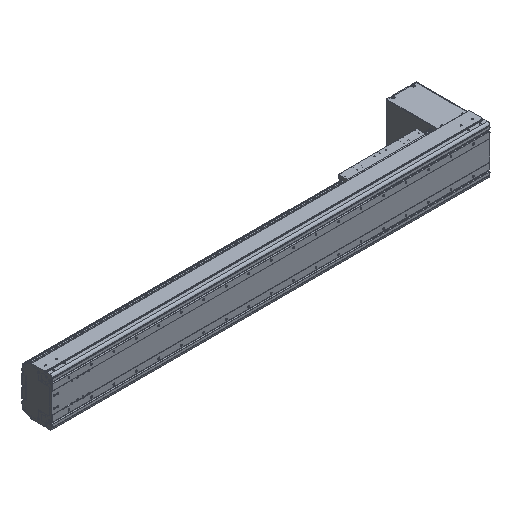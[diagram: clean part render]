
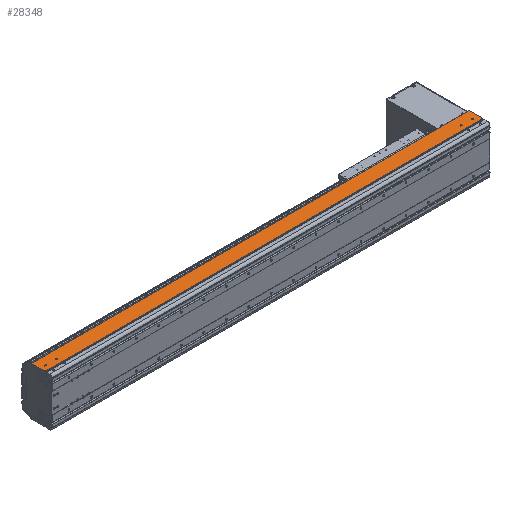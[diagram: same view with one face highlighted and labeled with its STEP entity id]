
A CAD part, isometric view. The second image highlights one B-rep face of the part: STEP entity #28348.
In plain terms, the highlighted planar face has unit normal (0, 0, 1).
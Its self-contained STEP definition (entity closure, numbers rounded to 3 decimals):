
#5125=DIRECTION('',(-1.,0.,0.));
#5126=VECTOR('',#5125,1948.5);
#5127=CARTESIAN_POINT('',(0.,93.5,107.));
#5128=LINE('',#5127,#5126);
#5169=CARTESIAN_POINT('',(0.,93.992,106.974));
#5170=CARTESIAN_POINT('',(0.,93.939,106.974));
#5171=CARTESIAN_POINT('',(0.,93.857,107.018));
#5172=CARTESIAN_POINT('',(0.,93.779,106.99));
#5173=CARTESIAN_POINT('',(0.,93.747,106.99));
#5175=CARTESIAN_POINT('',(0.,93.747,106.99));
#5176=CARTESIAN_POINT('',(0.,93.707,106.99));
#5177=CARTESIAN_POINT('',(0.,93.626,107.005));
#5178=CARTESIAN_POINT('',(0.,93.543,107.));
#5179=CARTESIAN_POINT('',(0.,93.5,107.));
#5181=CARTESIAN_POINT('',(-1923.5,54.,107.));
#5182=DIRECTION('',(0.,0.,-1.));
#5183=DIRECTION('',(1.,0.,0.));
#5184=AXIS2_PLACEMENT_3D('',#5181,#5182,#5183);
#5186=CARTESIAN_POINT('',(-1923.5,54.,107.));
#5187=DIRECTION('',(0.,0.,-1.));
#5188=DIRECTION('',(-1.,0.,0.));
#5189=AXIS2_PLACEMENT_3D('',#5186,#5187,#5188);
#5191=CARTESIAN_POINT('',(-1873.5,54.,107.));
#5192=DIRECTION('',(0.,0.,-1.));
#5193=DIRECTION('',(1.,0.,0.));
#5194=AXIS2_PLACEMENT_3D('',#5191,#5192,#5193);
#5196=CARTESIAN_POINT('',(-1873.5,54.,107.));
#5197=DIRECTION('',(0.,0.,-1.));
#5198=DIRECTION('',(-1.,0.,0.));
#5199=AXIS2_PLACEMENT_3D('',#5196,#5197,#5198);
#5201=CARTESIAN_POINT('',(-23.5,54.,107.));
#5202=DIRECTION('',(0.,0.,-1.));
#5203=DIRECTION('',(1.,0.,0.));
#5204=AXIS2_PLACEMENT_3D('',#5201,#5202,#5203);
#5206=CARTESIAN_POINT('',(-23.5,54.,107.));
#5207=DIRECTION('',(0.,0.,-1.));
#5208=DIRECTION('',(-1.,0.,0.));
#5209=AXIS2_PLACEMENT_3D('',#5206,#5207,#5208);
#5211=CARTESIAN_POINT('',(-73.5,54.,107.));
#5212=DIRECTION('',(0.,0.,-1.));
#5213=DIRECTION('',(1.,0.,0.));
#5214=AXIS2_PLACEMENT_3D('',#5211,#5212,#5213);
#5216=CARTESIAN_POINT('',(-73.5,54.,107.));
#5217=DIRECTION('',(0.,0.,-1.));
#5218=DIRECTION('',(-1.,0.,0.));
#5219=AXIS2_PLACEMENT_3D('',#5216,#5217,#5218);
#5221=DIRECTION('',(0.,-1.,0.));
#5222=VECTOR('',#5221,2.55);
#5223=CARTESIAN_POINT('',(-1946.5,34.65,107.));
#5224=LINE('',#5223,#5222);
#5225=DIRECTION('',(0.,-1.,0.));
#5226=VECTOR('',#5225,58.85);
#5227=CARTESIAN_POINT('',(-1948.5,93.5,107.));
#5228=LINE('',#5227,#5226);
#5229=DIRECTION('',(0.,1.,0.));
#5230=VECTOR('',#5229,58.35);
#5231=CARTESIAN_POINT('',(1.5,35.65,107.));
#5232=LINE('',#5231,#5230);
#5233=DIRECTION('',(0.,1.,0.));
#5234=VECTOR('',#5233,3.55);
#5235=CARTESIAN_POINT('',(0.,32.1,107.));
#5236=LINE('',#5235,#5234);
#5237=DIRECTION('',(1.,0.,0.));
#5238=VECTOR('',#5237,1946.5);
#5239=CARTESIAN_POINT('',(-1946.5,32.1,107.));
#5240=LINE('',#5239,#5238);
#5349=DIRECTION('',(1.,0.,0.));
#5350=VECTOR('',#5349,2.);
#5351=CARTESIAN_POINT('',(-1948.5,34.65,107.));
#5352=LINE('',#5351,#5350);
#5377=DIRECTION('',(-1.,-0.006,-0.017));
#5378=VECTOR('',#5377,1.5);
#5379=CARTESIAN_POINT('',(1.5,94.,107.));
#5380=LINE('',#5379,#5378);
#8710=DIRECTION('',(1.,0.,0.));
#8711=VECTOR('',#8710,1.5);
#8712=CARTESIAN_POINT('',(0.,35.65,107.));
#8713=LINE('',#8712,#8711);
#16828=CARTESIAN_POINT('',(1.5,94.,107.));
#16829=VERTEX_POINT('',#16828);
#16830=CARTESIAN_POINT('',(1.5,35.65,107.));
#16831=VERTEX_POINT('',#16830);
#16900=CARTESIAN_POINT('',(-1948.5,34.65,107.));
#16901=VERTEX_POINT('',#16900);
#16902=CARTESIAN_POINT('',(-1948.5,93.5,107.));
#16903=VERTEX_POINT('',#16902);
#17128=CARTESIAN_POINT('',(-1946.5,32.1,107.));
#17129=VERTEX_POINT('',#17128);
#17179=CARTESIAN_POINT('',(0.,32.1,107.));
#17181=VERTEX_POINT('',#17179);
#17718=CARTESIAN_POINT('',(-1921.,54.,107.));
#17719=CARTESIAN_POINT('',(-1926.,54.,107.));
#17720=VERTEX_POINT('',#17718);
#17721=VERTEX_POINT('',#17719);
#17722=CARTESIAN_POINT('',(-1871.,54.,107.));
#17723=CARTESIAN_POINT('',(-1876.,54.,107.));
#17724=VERTEX_POINT('',#17722);
#17725=VERTEX_POINT('',#17723);
#17726=CARTESIAN_POINT('',(-21.,54.,107.));
#17727=CARTESIAN_POINT('',(-26.,54.,107.));
#17728=VERTEX_POINT('',#17726);
#17729=VERTEX_POINT('',#17727);
#17730=CARTESIAN_POINT('',(-71.,54.,107.));
#17731=CARTESIAN_POINT('',(-76.,54.,107.));
#17732=VERTEX_POINT('',#17730);
#17733=VERTEX_POINT('',#17731);
#19872=CARTESIAN_POINT('',(0.,35.65,107.));
#19873=VERTEX_POINT('',#19872);
#19874=CARTESIAN_POINT('',(0.,93.975,106.923));
#19876=VERTEX_POINT('',#19874);
#20022=VERTEX_POINT('',#5173);
#20023=VERTEX_POINT('',#5179);
#20481=CARTESIAN_POINT('',(-1946.5,34.65,107.));
#20482=VERTEX_POINT('',#20481);
#28302=CARTESIAN_POINT('',(-973.25,62.8,107.));
#28303=DIRECTION('',(0.,0.,1.));
#28304=DIRECTION('',(0.,-1.,0.));
#28305=AXIS2_PLACEMENT_3D('',#28302,#28303,#28304);
#28306=PLANE('',#28305);
#28307=ORIENTED_EDGE('',*,*,#23790,.F.);
#28309=ORIENTED_EDGE('',*,*,#28308,.F.);
#28310=ORIENTED_EDGE('',*,*,#27373,.F.);
#28311=ORIENTED_EDGE('',*,*,#28278,.F.);
#28312=ORIENTED_EDGE('',*,*,#28297,.F.);
#28313=ORIENTED_EDGE('',*,*,#28295,.F.);
#28315=ORIENTED_EDGE('',*,*,#28314,.F.);
#28316=ORIENTED_EDGE('',*,*,#22263,.F.);
#28318=ORIENTED_EDGE('',*,*,#28317,.F.);
#28319=ORIENTED_EDGE('',*,*,#24548,.F.);
#28321=ORIENTED_EDGE('',*,*,#28320,.F.);
#28322=EDGE_LOOP('',(#28307,#28309,#28310,#28311,#28312,#28313,#28315,#28316,
#28318,#28319,#28321));
#28323=FACE_OUTER_BOUND('',#28322,.F.);
#28325=ORIENTED_EDGE('',*,*,#28324,.F.);
#28327=ORIENTED_EDGE('',*,*,#28326,.F.);
#28328=EDGE_LOOP('',(#28325,#28327));
#28329=FACE_BOUND('',#28328,.F.);
#28331=ORIENTED_EDGE('',*,*,#28330,.F.);
#28333=ORIENTED_EDGE('',*,*,#28332,.F.);
#28334=EDGE_LOOP('',(#28331,#28333));
#28335=FACE_BOUND('',#28334,.F.);
#28337=ORIENTED_EDGE('',*,*,#28336,.F.);
#28339=ORIENTED_EDGE('',*,*,#28338,.F.);
#28340=EDGE_LOOP('',(#28337,#28339));
#28341=FACE_BOUND('',#28340,.F.);
#28343=ORIENTED_EDGE('',*,*,#28342,.F.);
#28345=ORIENTED_EDGE('',*,*,#28344,.F.);
#28346=EDGE_LOOP('',(#28343,#28345));
#28347=FACE_BOUND('',#28346,.F.);
#28348=ADVANCED_FACE('',(#28323,#28329,#28335,#28341,#28347),#28306,.T.);
#5174=B_SPLINE_CURVE_WITH_KNOTS('',3,(#5169,#5170,#5171,#5172,#5173),
.UNSPECIFIED.,.F.,.F.,(4,1,4),(0.,0.5,1.),.UNSPECIFIED.);
#5180=B_SPLINE_CURVE_WITH_KNOTS('',3,(#5175,#5176,#5177,#5178,#5179),
.UNSPECIFIED.,.F.,.F.,(4,1,4),(0.,0.5,1.),.UNSPECIFIED.);
#5185=CIRCLE('',#5184,2.5);
#5190=CIRCLE('',#5189,2.5);
#5195=CIRCLE('',#5194,2.5);
#5200=CIRCLE('',#5199,2.5);
#5205=CIRCLE('',#5204,2.5);
#5210=CIRCLE('',#5209,2.5);
#5215=CIRCLE('',#5214,2.5);
#5220=CIRCLE('',#5219,2.5);
#22263=EDGE_CURVE('',#16831,#16829,#5232,.T.);
#23790=EDGE_CURVE('',#20482,#17129,#5224,.T.);
#24548=EDGE_CURVE('',#17181,#19873,#5236,.T.);
#27373=EDGE_CURVE('',#16903,#16901,#5228,.T.);
#28278=EDGE_CURVE('',#20023,#16903,#5128,.T.);
#28295=EDGE_CURVE('',#19876,#20022,#5174,.T.);
#28297=EDGE_CURVE('',#20022,#20023,#5180,.T.);
#28308=EDGE_CURVE('',#16901,#20482,#5352,.T.);
#28314=EDGE_CURVE('',#16829,#19876,#5380,.T.);
#28317=EDGE_CURVE('',#19873,#16831,#8713,.T.);
#28320=EDGE_CURVE('',#17129,#17181,#5240,.T.);
#28324=EDGE_CURVE('',#17724,#17725,#5195,.T.);
#28326=EDGE_CURVE('',#17725,#17724,#5200,.T.);
#28330=EDGE_CURVE('',#17728,#17729,#5205,.T.);
#28332=EDGE_CURVE('',#17729,#17728,#5210,.T.);
#28336=EDGE_CURVE('',#17732,#17733,#5215,.T.);
#28338=EDGE_CURVE('',#17733,#17732,#5220,.T.);
#28342=EDGE_CURVE('',#17720,#17721,#5185,.T.);
#28344=EDGE_CURVE('',#17721,#17720,#5190,.T.);
